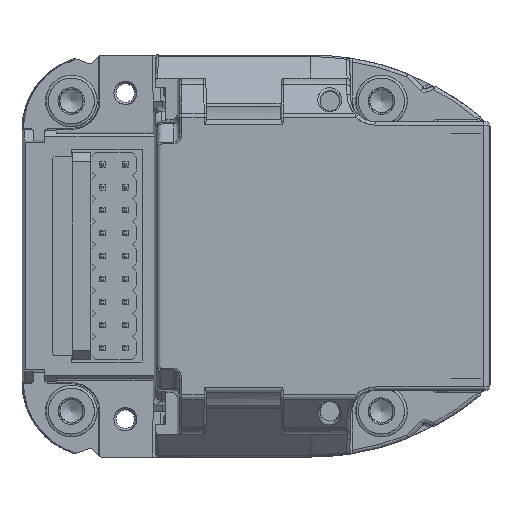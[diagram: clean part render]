
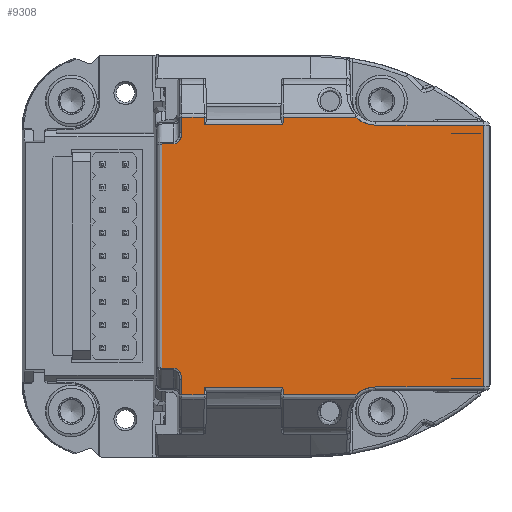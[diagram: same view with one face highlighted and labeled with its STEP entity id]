
A CAD part, front view. The second image highlights one B-rep face of the part: STEP entity #9308.
In plain terms, the highlighted planar face has unit normal (0, -1, 0).
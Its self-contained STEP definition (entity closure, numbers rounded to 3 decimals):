
#9308=ADVANCED_FACE('',(#11101),#10443,.T.);
#10443=PLANE('',#45353);
#11101=FACE_OUTER_BOUND('',#12214,.T.);
#12214=EDGE_LOOP('',(#20615,#20616,#20617,#20618,#20619,#20620,#20621,#20622,
#20623,#20624,#20625,#20626,#20627,#20628,#20629,#20630,#20631,#20632,#20633,
#20634,#20635,#20636,#20637,#20638));
#13816=LINE('',#57549,#16985);
#13817=LINE('',#57552,#16986);
#13818=LINE('',#57554,#16987);
#13819=LINE('',#57561,#16988);
#13820=LINE('',#57568,#16989);
#13821=LINE('',#57575,#16990);
#13822=LINE('',#57577,#16991);
#13823=LINE('',#57584,#16992);
#13824=LINE('',#57586,#16993);
#13825=LINE('',#57588,#16994);
#13826=LINE('',#57590,#16995);
#13827=LINE('',#57592,#16996);
#13828=LINE('',#57599,#16997);
#13829=LINE('',#57601,#16998);
#13830=LINE('',#57608,#16999);
#13831=LINE('',#57615,#17000);
#16985=VECTOR('',#47835,1.);
#16986=VECTOR('',#47836,1.);
#16987=VECTOR('',#47837,1.);
#16988=VECTOR('',#47838,1.);
#16989=VECTOR('',#47839,1.);
#16990=VECTOR('',#47840,1.);
#16991=VECTOR('',#47841,1.);
#16992=VECTOR('',#47842,1.);
#16993=VECTOR('',#47843,1.);
#16994=VECTOR('',#47844,1.);
#16995=VECTOR('',#47845,1.);
#16996=VECTOR('',#47846,1.);
#16997=VECTOR('',#47847,1.);
#16998=VECTOR('',#47848,1.);
#16999=VECTOR('',#47849,1.);
#17000=VECTOR('',#47850,1.);
#20615=ORIENTED_EDGE('',*,*,#33881,.T.);
#20616=ORIENTED_EDGE('',*,*,#33882,.T.);
#20617=ORIENTED_EDGE('',*,*,#33883,.T.);
#20618=ORIENTED_EDGE('',*,*,#33884,.T.);
#20619=ORIENTED_EDGE('',*,*,#33885,.T.);
#20620=ORIENTED_EDGE('',*,*,#33886,.T.);
#20621=ORIENTED_EDGE('',*,*,#33887,.T.);
#20622=ORIENTED_EDGE('',*,*,#33888,.T.);
#20623=ORIENTED_EDGE('',*,*,#33889,.T.);
#20624=ORIENTED_EDGE('',*,*,#33890,.T.);
#20625=ORIENTED_EDGE('',*,*,#33891,.T.);
#20626=ORIENTED_EDGE('',*,*,#33892,.T.);
#20627=ORIENTED_EDGE('',*,*,#33893,.T.);
#20628=ORIENTED_EDGE('',*,*,#33894,.T.);
#20629=ORIENTED_EDGE('',*,*,#33895,.T.);
#20630=ORIENTED_EDGE('',*,*,#33896,.T.);
#20631=ORIENTED_EDGE('',*,*,#33897,.T.);
#20632=ORIENTED_EDGE('',*,*,#33898,.T.);
#20633=ORIENTED_EDGE('',*,*,#33899,.T.);
#20634=ORIENTED_EDGE('',*,*,#33900,.T.);
#20635=ORIENTED_EDGE('',*,*,#33901,.T.);
#20636=ORIENTED_EDGE('',*,*,#33902,.T.);
#20637=ORIENTED_EDGE('',*,*,#33903,.T.);
#20638=ORIENTED_EDGE('',*,*,#33904,.T.);
#27245=VERTEX_POINT('',#57550);
#27246=VERTEX_POINT('',#57551);
#27247=VERTEX_POINT('',#57553);
#27248=VERTEX_POINT('',#57555);
#27249=VERTEX_POINT('',#57560);
#27250=VERTEX_POINT('',#57562);
#27251=VERTEX_POINT('',#57567);
#27252=VERTEX_POINT('',#57569);
#27253=VERTEX_POINT('',#57574);
#27254=VERTEX_POINT('',#57576);
#27255=VERTEX_POINT('',#57578);
#27256=VERTEX_POINT('',#57583);
#27257=VERTEX_POINT('',#57585);
#27258=VERTEX_POINT('',#57587);
#27259=VERTEX_POINT('',#57589);
#27260=VERTEX_POINT('',#57591);
#27261=VERTEX_POINT('',#57593);
#27262=VERTEX_POINT('',#57598);
#27263=VERTEX_POINT('',#57600);
#27264=VERTEX_POINT('',#57602);
#27265=VERTEX_POINT('',#57607);
#27266=VERTEX_POINT('',#57609);
#27267=VERTEX_POINT('',#57614);
#27268=VERTEX_POINT('',#57616);
#33881=EDGE_CURVE('',#27245,#27246,#13816,.T.);
#33882=EDGE_CURVE('',#27246,#27247,#13817,.T.);
#33883=EDGE_CURVE('',#27247,#27248,#13818,.T.);
#33884=EDGE_CURVE('',#27248,#27249,#39970,.T.);
#33885=EDGE_CURVE('',#27249,#27250,#13819,.T.);
#33886=EDGE_CURVE('',#27250,#27251,#39971,.T.);
#33887=EDGE_CURVE('',#27251,#27252,#13820,.T.);
#33888=EDGE_CURVE('',#27252,#27253,#39972,.T.);
#33889=EDGE_CURVE('',#27253,#27254,#13821,.T.);
#33890=EDGE_CURVE('',#27254,#27255,#13822,.T.);
#33891=EDGE_CURVE('',#27255,#27256,#39973,.T.);
#33892=EDGE_CURVE('',#27256,#27257,#13823,.T.);
#33893=EDGE_CURVE('',#27257,#27258,#13824,.T.);
#33894=EDGE_CURVE('',#27258,#27259,#13825,.T.);
#33895=EDGE_CURVE('',#27259,#27260,#13826,.T.);
#33896=EDGE_CURVE('',#27260,#27261,#13827,.T.);
#33897=EDGE_CURVE('',#27261,#27262,#39974,.T.);
#33898=EDGE_CURVE('',#27262,#27263,#13828,.T.);
#33899=EDGE_CURVE('',#27263,#27264,#13829,.T.);
#33900=EDGE_CURVE('',#27264,#27265,#39975,.T.);
#33901=EDGE_CURVE('',#27265,#27266,#13830,.T.);
#33902=EDGE_CURVE('',#27266,#27267,#39976,.T.);
#33903=EDGE_CURVE('',#27267,#27268,#13831,.T.);
#33904=EDGE_CURVE('',#27268,#27245,#39977,.T.);
#39970=B_SPLINE_CURVE_WITH_KNOTS('',3,(#57556,#57557,#57558,#57559),
 .UNSPECIFIED.,.F.,.F.,(4,4),(0.,1.),.UNSPECIFIED.);
#39971=B_SPLINE_CURVE_WITH_KNOTS('',3,(#57563,#57564,#57565,#57566),
 .UNSPECIFIED.,.F.,.F.,(4,4),(0.,1.),.UNSPECIFIED.);
#39972=B_SPLINE_CURVE_WITH_KNOTS('',3,(#57570,#57571,#57572,#57573),
 .UNSPECIFIED.,.F.,.F.,(4,4),(0.,1.),.UNSPECIFIED.);
#39973=B_SPLINE_CURVE_WITH_KNOTS('',3,(#57579,#57580,#57581,#57582),
 .UNSPECIFIED.,.F.,.F.,(4,4),(0.,1.),.UNSPECIFIED.);
#39974=B_SPLINE_CURVE_WITH_KNOTS('',3,(#57594,#57595,#57596,#57597),
 .UNSPECIFIED.,.F.,.F.,(4,4),(0.,1.),.UNSPECIFIED.);
#39975=B_SPLINE_CURVE_WITH_KNOTS('',3,(#57603,#57604,#57605,#57606),
 .UNSPECIFIED.,.F.,.F.,(4,4),(0.,1.),.UNSPECIFIED.);
#39976=B_SPLINE_CURVE_WITH_KNOTS('',3,(#57610,#57611,#57612,#57613),
 .UNSPECIFIED.,.F.,.F.,(4,4),(0.,1.),.UNSPECIFIED.);
#39977=B_SPLINE_CURVE_WITH_KNOTS('',3,(#57617,#57618,#57619,#57620),
 .UNSPECIFIED.,.F.,.F.,(4,4),(0.,1.),.UNSPECIFIED.);
#45353=AXIS2_PLACEMENT_3D('',#57621,#47851,#47852);
#47835=DIRECTION('',(1.,0.,0.));
#47836=DIRECTION('',(0.,0.,1.));
#47837=DIRECTION('',(-1.,0.,0.));
#47838=DIRECTION('',(-1.,0.,0.));
#47839=DIRECTION('',(-1.,0.,0.));
#47840=DIRECTION('',(-1.,0.,0.));
#47841=DIRECTION('',(0.,0.,-1.));
#47842=DIRECTION('',(-1.,0.,0.));
#47843=DIRECTION('',(-1.,0.,0.));
#47844=DIRECTION('',(0.,0.,-1.));
#47845=DIRECTION('',(1.,0.,0.));
#47846=DIRECTION('',(1.,0.,0.));
#47847=DIRECTION('',(0.,0.,-1.));
#47848=DIRECTION('',(1.,0.,0.));
#47849=DIRECTION('',(1.,0.,0.));
#47850=DIRECTION('',(1.,0.,0.));
#47851=DIRECTION('',(0.,-1.,0.));
#47852=DIRECTION('',(0.,0.,1.));
#57549=CARTESIAN_POINT('',(26.215,-228.1,-28.9));
#57550=CARTESIAN_POINT('',(30.8,-228.1,-28.9));
#57551=CARTESIAN_POINT('',(40.2,-228.1,-28.9));
#57552=CARTESIAN_POINT('',(40.2,-228.1,-17.5));
#57553=CARTESIAN_POINT('',(40.2,-228.1,-6.1));
#57554=CARTESIAN_POINT('',(26.215,-228.1,-6.1));
#57555=CARTESIAN_POINT('',(30.8,-228.1,-6.1));
#57556=CARTESIAN_POINT('',(30.8,-228.1,-6.1));
#57557=CARTESIAN_POINT('',(30.132,-228.1,-6.1));
#57558=CARTESIAN_POINT('',(29.556,-228.1,-5.869));
#57559=CARTESIAN_POINT('',(29.072,-228.1,-5.407));
#57560=CARTESIAN_POINT('',(29.072,-228.1,-5.407));
#57561=CARTESIAN_POINT('',(26.215,-228.1,-5.407));
#57562=CARTESIAN_POINT('',(22.734,-228.1,-5.407));
#57563=CARTESIAN_POINT('',(22.734,-228.1,-5.407));
#57564=CARTESIAN_POINT('',(22.73,-228.1,-5.622));
#57565=CARTESIAN_POINT('',(22.727,-228.1,-5.836));
#57566=CARTESIAN_POINT('',(22.723,-228.1,-6.05));
#57567=CARTESIAN_POINT('',(22.723,-228.1,-6.05));
#57568=CARTESIAN_POINT('',(26.215,-228.1,-6.05));
#57569=CARTESIAN_POINT('',(15.877,-228.1,-6.05));
#57570=CARTESIAN_POINT('',(15.877,-228.1,-6.05));
#57571=CARTESIAN_POINT('',(15.873,-228.1,-5.836));
#57572=CARTESIAN_POINT('',(15.87,-228.1,-5.622));
#57573=CARTESIAN_POINT('',(15.866,-228.1,-5.407));
#57574=CARTESIAN_POINT('',(15.866,-228.1,-5.407));
#57575=CARTESIAN_POINT('',(26.215,-228.1,-5.407));
#57576=CARTESIAN_POINT('',(13.915,-228.1,-5.407));
#57577=CARTESIAN_POINT('',(13.915,-228.1,-17.5));
#57578=CARTESIAN_POINT('',(13.915,-228.1,-6.749));
#57579=CARTESIAN_POINT('',(13.915,-228.1,-6.749));
#57580=CARTESIAN_POINT('',(13.915,-228.1,-7.29));
#57581=CARTESIAN_POINT('',(13.609,-228.1,-7.733));
#57582=CARTESIAN_POINT('',(13.219,-228.1,-7.733));
#57583=CARTESIAN_POINT('',(13.219,-228.1,-7.733));
#57584=CARTESIAN_POINT('',(26.215,-228.1,-7.733));
#57585=CARTESIAN_POINT('',(12.23,-228.1,-7.733));
#57586=CARTESIAN_POINT('',(26.215,-228.1,-7.733));
#57587=CARTESIAN_POINT('',(12.23,-228.1,-7.733));
#57588=CARTESIAN_POINT('',(12.23,-228.1,-17.5));
#57589=CARTESIAN_POINT('',(12.23,-228.1,-27.267));
#57590=CARTESIAN_POINT('',(26.215,-228.1,-27.267));
#57591=CARTESIAN_POINT('',(12.23,-228.1,-27.267));
#57592=CARTESIAN_POINT('',(26.215,-228.1,-27.267));
#57593=CARTESIAN_POINT('',(13.219,-228.1,-27.267));
#57594=CARTESIAN_POINT('',(13.219,-228.1,-27.267));
#57595=CARTESIAN_POINT('',(13.598,-228.1,-27.267));
#57596=CARTESIAN_POINT('',(13.915,-228.1,-27.704));
#57597=CARTESIAN_POINT('',(13.915,-228.1,-28.251));
#57598=CARTESIAN_POINT('',(13.915,-228.1,-28.251));
#57599=CARTESIAN_POINT('',(13.915,-228.1,-17.5));
#57600=CARTESIAN_POINT('',(13.915,-228.1,-29.593));
#57601=CARTESIAN_POINT('',(26.215,-228.1,-29.593));
#57602=CARTESIAN_POINT('',(15.866,-228.1,-29.593));
#57603=CARTESIAN_POINT('',(15.866,-228.1,-29.593));
#57604=CARTESIAN_POINT('',(15.87,-228.1,-29.378));
#57605=CARTESIAN_POINT('',(15.873,-228.1,-29.164));
#57606=CARTESIAN_POINT('',(15.877,-228.1,-28.95));
#57607=CARTESIAN_POINT('',(15.877,-228.1,-28.95));
#57608=CARTESIAN_POINT('',(26.215,-228.1,-28.95));
#57609=CARTESIAN_POINT('',(22.723,-228.1,-28.95));
#57610=CARTESIAN_POINT('',(22.723,-228.1,-28.95));
#57611=CARTESIAN_POINT('',(22.727,-228.1,-29.164));
#57612=CARTESIAN_POINT('',(22.73,-228.1,-29.378));
#57613=CARTESIAN_POINT('',(22.734,-228.1,-29.593));
#57614=CARTESIAN_POINT('',(22.734,-228.1,-29.593));
#57615=CARTESIAN_POINT('',(26.215,-228.1,-29.593));
#57616=CARTESIAN_POINT('',(29.072,-228.1,-29.593));
#57617=CARTESIAN_POINT('',(29.072,-228.1,-29.593));
#57618=CARTESIAN_POINT('',(29.556,-228.1,-29.131));
#57619=CARTESIAN_POINT('',(30.132,-228.1,-28.9));
#57620=CARTESIAN_POINT('',(30.8,-228.1,-28.9));
#57621=CARTESIAN_POINT('',(40.2,-228.1,-29.593));
